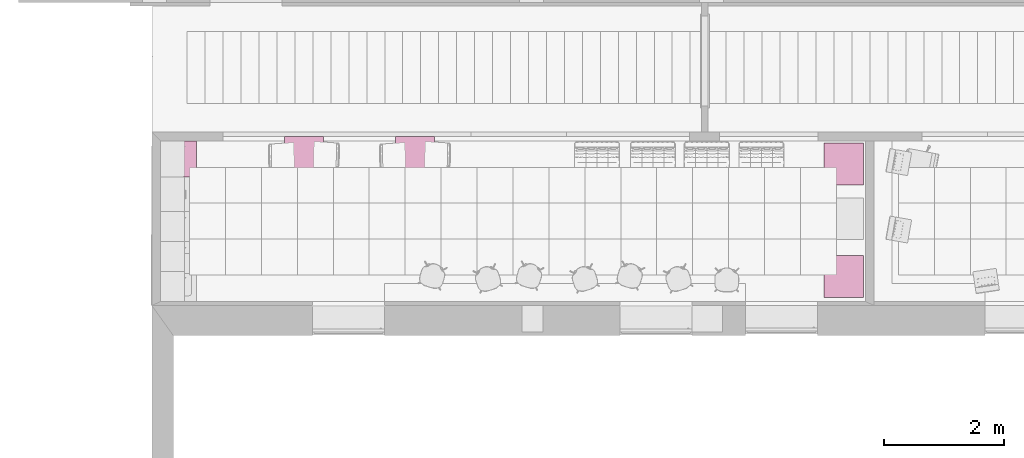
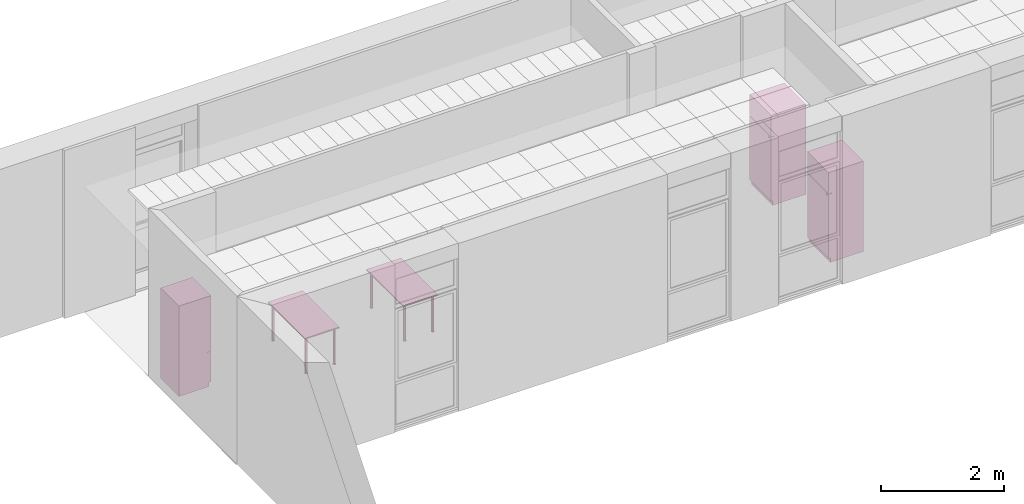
# One storey, part 61 of 68: 5 furnishings.
"""IFC2X3 building model written with IfcOpenShell, lengths in millimetres."""

from ifc_helpers import new_model, entity, si_unit, converted_unit, derived_unit, money_unit, direction, frame, origin_with_axes, place, context, subcontext, project, spatial, open_shell, faceted_brep, surface_model, source, transform, mapped, type_object, element, save


model = new_model("IFC2X3")

# Units and contexts
model_context = context("Model", 3, precision=0.01, world=origin_with_axes(), true_north=direction((0.0, 1.0)))
body_context = subcontext(model_context, "Body", "Model", "MODEL_VIEW")
ifc_project = project(units=[si_unit("LENGTHUNIT", "METRE", prefix="MILLI"), si_unit("AREAUNIT", "SQUARE_METRE"), si_unit("VOLUMEUNIT", "CUBIC_METRE"), converted_unit("PLANEANGLEUNIT", "DEGREE", entity("IfcPlaneAngleMeasure", 0.0174532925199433), si_unit("PLANEANGLEUNIT", "RADIAN"), dimensions=[0, 0, 0, 0, 0, 0, 0]), money_unit("USD"), converted_unit("TIMEUNIT", "Year", entity("IfcTimeMeasure", 31557600.0), si_unit("TIMEUNIT", "SECOND"), dimensions=[0, 0, 1, 0, 0, 0, 0]), si_unit("MASSUNIT", "GRAM", prefix="KILO"), si_unit("THERMODYNAMICTEMPERATUREUNIT", "DEGREE_CELSIUS"), si_unit("LUMINOUSINTENSITYUNIT", "LUMEN"), si_unit("ENERGYUNIT", "JOULE", prefix="MEGA"), derived_unit("THERMALCONDUCTANCEUNIT", [(si_unit("POWERUNIT", "WATT"), 1), (si_unit("LENGTHUNIT", "METRE"), -1), (si_unit("THERMODYNAMICTEMPERATUREUNIT", "KELVIN"), -1)]), derived_unit("SPECIFICHEATCAPACITYUNIT", [(si_unit("ENERGYUNIT", "JOULE"), 1), (si_unit("MASSUNIT", "GRAM", prefix="KILO"), -1), (si_unit("THERMODYNAMICTEMPERATUREUNIT", "KELVIN"), -1)]), derived_unit("MASSDENSITYUNIT", [(si_unit("MASSUNIT", "GRAM", prefix="KILO"), 1), (si_unit("VOLUMEUNIT", "CUBIC_METRE"), -1)])], contexts=[model_context])

# Site, building, storey
site_placement = place(None, origin_with_axes())
site = spatial("IfcSite", under=ifc_project, at=site_placement, Name="Sitio", CompositionType="ELEMENT")
building_placement = place(site_placement, origin_with_axes())
building = spatial("IfcBuilding", under=site, at=building_placement, Name="Construcción", CompositionType="ELEMENT")
storey_placement = place(building_placement, origin_with_axes())
storey = spatial("IfcBuildingStorey", under=building, at=storey_placement, Name="PLANTA 1ª", CompositionType="ELEMENT", Elevation=0.0)

# Furnishings
furnishing_element_type_1 = type_object("IfcFurnishingElementType", Name="Nevera 27")
shared_shape_1 = source(origin_with_axes(), body_context, "Body", "SurfaceModel", [
    faceted_brep([(0.0, 0.0, 1775.0), (600.0, 0.0, 1775.0), (600.0, 0.0, 1800.0), (0.0, 0.0, 1800.0), (0.0, 600.0, 1775.0), (600.0, 600.0, 1775.0), (600.0, 600.0, 1800.0), (0.0, 600.0, 1800.0)], [[[0, 1, 2, 3]], [[0, 4, 5, 1]], [[1, 5, 6, 2]], [[3, 2, 6, 7]], [[4, 0, 3, 7]], [[5, 4, 7, 6]]]),
    faceted_brep([(0.0, 65.0, 0.0), (600.0, 65.0, 0.0), (600.0, 65.0, 1775.0), (0.0, 65.0, 1775.0), (0.0, 600.0, 0.0), (600.0, 600.0, 0.0), (600.0, 600.0, 1775.0), (0.0, 600.0, 1775.0)], [[[0, 1, 2, 3]], [[0, 4, 5, 1]], [[1, 5, 6, 2]], [[3, 2, 6, 7]], [[4, 0, 3, 7]], [[5, 4, 7, 6]]]),
    faceted_brep([(0.0, 30.0, 0.0), (600.0, 30.0, 0.0), (600.0, 30.0, 90.0), (0.0, 30.0, 90.0), (0.0, 60.0, 0.0), (600.0, 60.0, 0.0), (600.0, 60.0, 90.0), (0.0, 60.0, 90.0)], [[[0, 1, 2, 3]], [[0, 4, 5, 1]], [[1, 5, 6, 2]], [[3, 2, 6, 7]], [[4, 0, 3, 7]], [[5, 4, 7, 6]]]),
    faceted_brep([(0.0, 60.0, 695.0), (600.0, 60.0, 695.0), (600.0, 0.0, 695.0), (0.0, 0.0, 695.0), (0.0, 60.00000000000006, 1774.5), (600.0, 60.00000000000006, 1774.5), (600.0, 0.0, 1774.5), (0.0, 0.0, 1774.5)], [[[0, 1, 2, 3]], [[0, 4, 5, 1]], [[1, 5, 6, 2]], [[3, 2, 6, 7]], [[4, 0, 3, 7]], [[5, 4, 7, 6]]]),
    faceted_brep([(0.0, 60.0, 90.0), (600.0, 60.0, 90.0), (600.0, 0.0, 90.0), (0.0, 0.0, 90.0), (0.0, 60.00000000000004, 690.0), (600.0, 60.00000000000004, 690.0), (600.0, 0.0, 690.0), (0.0, 0.0, 690.0)], [[[0, 1, 2, 3]], [[0, 4, 5, 1]], [[1, 5, 6, 2]], [[3, 2, 6, 7]], [[4, 0, 3, 7]], [[5, 4, 7, 6]]]),
    surface_model("IfcShellBasedSurfaceModel", [(600.0, -30.0, 695.0), (600.0, -30.0, 705.0), (600.0, 0.0, 705.0), (600.0, 0.0, 695.0)], [open_shell([[[0, 1, 2, 3]]])]),
    surface_model("IfcShellBasedSurfaceModel", [(600.0, -30.0, 695.0), (600.0, -30.0, 705.0), (570.0, -30.0, 705.0), (570.0, -30.0, 695.0)], [open_shell([[[0, 1, 2, 3]]])]),
    surface_model("IfcShellBasedSurfaceModel", [(600.0, -30.0, 679.9999999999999), (600.0, -30.0, 690.0), (600.0, 0.0, 690.0), (600.0, 0.0, 679.9999999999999)], [open_shell([[[0, 1, 2, 3]]])]),
    surface_model("IfcShellBasedSurfaceModel", [(600.0, -30.0, 679.9999999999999), (600.0, -30.0, 690.0), (570.0, -30.0, 690.0), (570.0, -30.0, 679.9999999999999)], [open_shell([[[0, 1, 2, 3]]])]),
])
furnishing_placement = place(storey_placement, frame((-27304.84818028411, 954.8530559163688, 0.0), z_axis=(0.0, 0.0, 1.0), x_axis=(0.0, 1.0, 0.0)))
element("IfcFurnishingElement", 1, at=furnishing_placement, inside=storey, type_object=furnishing_element_type_1, Name="60.20.53 Armari", context=body_context, shape_type="MappedRepresentation", body=[
    mapped(shared_shape_1, transform((0.0, 0.0, 0.0))),
])
shared_shape_2 = source(origin_with_axes(), body_context, "Body", "SurfaceModel", [
    faceted_brep([(0.0, 0.0, 1775.0), (698.9515664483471, 0.0, 1775.0), (698.9515664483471, 0.0, 1800.0), (0.0, 0.0, 1800.0), (0.0, 654.832835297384, 1775.0), (698.9515664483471, 654.832835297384, 1775.0), (698.9515664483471, 654.832835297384, 1800.0), (0.0, 654.832835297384, 1800.0)], [[[0, 1, 2, 3]], [[0, 4, 5, 1]], [[1, 5, 6, 2]], [[3, 2, 6, 7]], [[4, 0, 3, 7]], [[5, 4, 7, 6]]]),
    faceted_brep([(0.0, 65.0, 0.0), (698.9515664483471, 65.0, 0.0), (698.9515664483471, 65.0, 1775.0), (0.0, 65.0, 1775.0), (0.0, 654.832835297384, 0.0), (698.9515664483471, 654.832835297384, 0.0), (698.9515664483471, 654.832835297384, 1775.0), (0.0, 654.832835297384, 1775.0)], [[[0, 1, 2, 3]], [[0, 4, 5, 1]], [[1, 5, 6, 2]], [[3, 2, 6, 7]], [[4, 0, 3, 7]], [[5, 4, 7, 6]]]),
    faceted_brep([(0.0, 30.0, 0.0), (698.9515664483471, 30.0, 0.0), (698.9515664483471, 30.0, 90.0), (0.0, 30.0, 90.0), (0.0, 60.0, 0.0), (698.9515664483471, 60.0, 0.0), (698.9515664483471, 60.0, 90.0), (0.0, 60.0, 90.0)], [[[0, 1, 2, 3]], [[0, 4, 5, 1]], [[1, 5, 6, 2]], [[3, 2, 6, 7]], [[4, 0, 3, 7]], [[5, 4, 7, 6]]]),
    faceted_brep([(0.0, 60.0, 90.0), (698.9515664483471, 60.0, 90.0), (698.9515664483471, 0.0, 90.0), (0.0, 0.0, 90.0), (0.0, 60.00000000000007, 1369.5), (698.9515664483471, 60.00000000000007, 1369.5), (698.9515664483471, 0.0, 1369.5), (0.0, 0.0, 1369.5)], [[[0, 1, 2, 3]], [[0, 4, 5, 1]], [[1, 5, 6, 2]], [[3, 2, 6, 7]], [[4, 0, 3, 7]], [[5, 4, 7, 6]]]),
    faceted_brep([(0.0, 60.0, 1374.5), (698.9515664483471, 60.0, 1374.5), (698.9515664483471, 0.0, 1374.5), (0.0, 0.0, 1374.5), (0.0, 60.00000000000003, 1774.5), (698.9515664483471, 60.00000000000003, 1774.5), (698.9515664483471, 0.0, 1774.5), (0.0, 0.0, 1774.5)], [[[0, 1, 2, 3]], [[0, 4, 5, 1]], [[1, 5, 6, 2]], [[3, 2, 6, 7]], [[4, 0, 3, 7]], [[5, 4, 7, 6]]]),
    surface_model("IfcShellBasedSurfaceModel", [(698.9515664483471, -30.0, 1359.5), (698.9515664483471, -30.0, 1369.5), (698.9515664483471, 0.0, 1369.5), (698.9515664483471, 0.0, 1359.5)], [open_shell([[[0, 1, 2, 3]]])]),
    surface_model("IfcShellBasedSurfaceModel", [(698.9515664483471, -30.0, 1359.5), (698.9515664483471, -30.0, 1369.5), (668.9515664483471, -30.0, 1369.5), (668.9515664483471, -30.0, 1359.5)], [open_shell([[[0, 1, 2, 3]]])]),
    surface_model("IfcShellBasedSurfaceModel", [(698.9515664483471, -30.0, 1374.5), (698.9515664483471, -30.0, 1384.5), (698.9515664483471, 0.0, 1384.5), (698.9515664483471, 0.0, 1374.5)], [open_shell([[[0, 1, 2, 3]]])]),
    surface_model("IfcShellBasedSurfaceModel", [(698.9515664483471, -30.0, 1374.5), (698.9515664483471, -30.0, 1384.5), (668.9515664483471, -30.0, 1384.5), (668.9515664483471, -30.0, 1374.5)], [open_shell([[[0, 1, 2, 3]]])]),
])
for number, where, z_axis, x_axis in (
    (2, (-16824.2555893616, 1518.631386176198, 0.0), (0.0, 0.0, 1.0), (0.0, -1.0, 0.0)),
    (3, (-16824.2555893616, -358.7704158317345, 0.0), (0.0, 0.0, 1.0), (0.0, -1.0, 0.0)),
):
    element("IfcFurnishingElement", number, at=place(storey_placement, frame(where, z_axis=z_axis, x_axis=x_axis)), inside=storey, type_object=furnishing_element_type_1, Name="60.20.53 Armari", context=body_context, shape_type="MappedRepresentation", body=[
        mapped(shared_shape_2, transform((0.0, 0.0, 0.0))),
    ])
furnishing_element_type_2 = type_object("IfcFurnishingElementType", Name="Mesa Oficina Rect 27")
shared_shape_3 = source(origin_with_axes(), body_context, "Body", "Brep", [
    faceted_brep([(0.0, 0.0, 725.0), (0.0, 0.0, 750.0), (-1200.0, 0.0, 750.0), (-1200.0, 0.0, 725.0), (0.0, 650.0, 725.0), (0.0, 650.0, 750.0), (-1200.0, 650.0, 750.0), (-1200.0, 650.0, 725.0)], [[[0, 1, 2, 3]], [[4, 5, 1, 0]], [[1, 5, 6, 2]], [[3, 2, 6, 7]], [[0, 3, 7, 4]], [[7, 6, 5, 4]]]),
    faceted_brep([(-77.67766952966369, 77.67766952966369, 10.0), (-60.0, 84.99999999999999, 10.0), (-42.3223304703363, 77.67766952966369, 10.0), (-34.99999999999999, 60.0, 10.0), (-42.3223304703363, 42.3223304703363, 10.0), (-60.0, 34.99999999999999, 10.0), (-77.67766952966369, 42.3223304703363, 10.0), (-85.0, 60.0, 10.0), (-77.67766952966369, 77.67766952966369, 725.0), (-60.0, 84.99999999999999, 725.0), (-42.3223304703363, 77.67766952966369, 725.0), (-34.99999999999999, 60.0, 725.0), (-42.3223304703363, 42.3223304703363, 725.0), (-60.0, 34.99999999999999, 725.0), (-77.67766952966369, 42.3223304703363, 725.0), (-85.0, 60.0, 725.0)], [[[0, 1, 2, 3, 4, 5, 6, 7]], [[0, 8, 9, 1]], [[1, 9, 10, 2]], [[2, 10, 11, 3]], [[3, 11, 12, 4]], [[4, 12, 13, 5]], [[5, 13, 14, 6]], [[6, 14, 15, 7]], [[7, 15, 8, 0]], [[8, 15, 14, 13, 12, 11, 10, 9]]]),
    faceted_brep([(-81.21320343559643, 81.21320343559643, 0.0), (-60.0, 90.0, 0.0), (-38.78679656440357, 81.21320343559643, 0.0), (-29.99999999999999, 60.0, 0.0), (-38.78679656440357, 38.78679656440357, 0.0), (-60.0, 29.99999999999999, 0.0), (-81.21320343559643, 38.78679656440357, 0.0), (-90.00000000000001, 60.0, 0.0), (-81.21320343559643, 81.21320343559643, 10.0), (-60.0, 90.0, 10.0), (-38.78679656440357, 81.21320343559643, 10.0), (-29.99999999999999, 60.0, 10.0), (-38.78679656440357, 38.78679656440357, 10.0), (-60.0, 29.99999999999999, 10.0), (-81.21320343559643, 38.78679656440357, 10.0), (-90.00000000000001, 60.0, 10.0)], [[[0, 1, 2, 3, 4, 5, 6, 7]], [[0, 8, 9, 1]], [[1, 9, 10, 2]], [[2, 10, 11, 3]], [[3, 11, 12, 4]], [[4, 12, 13, 5]], [[5, 13, 14, 6]], [[6, 14, 15, 7]], [[7, 15, 8, 0]], [[8, 15, 14, 13, 12, 11, 10, 9]]]),
    faceted_brep([(-77.67766952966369, 607.6776695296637, 10.0), (-60.0, 615.0000000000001, 10.0), (-42.3223304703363, 607.6776695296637, 10.0), (-34.99999999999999, 590.0000000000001, 10.0), (-42.3223304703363, 572.3223304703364, 10.0), (-60.0, 565.0000000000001, 10.0), (-77.67766952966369, 572.3223304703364, 10.0), (-85.0, 590.0000000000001, 10.0), (-77.67766952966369, 607.6776695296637, 725.0), (-60.0, 615.0000000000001, 725.0), (-42.3223304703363, 607.6776695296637, 725.0), (-34.99999999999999, 590.0000000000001, 725.0), (-42.3223304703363, 572.3223304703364, 725.0), (-60.0, 565.0000000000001, 725.0), (-77.67766952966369, 572.3223304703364, 725.0), (-85.0, 590.0000000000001, 725.0)], [[[0, 1, 2, 3, 4, 5, 6, 7]], [[0, 8, 9, 1]], [[1, 9, 10, 2]], [[2, 10, 11, 3]], [[3, 11, 12, 4]], [[4, 12, 13, 5]], [[5, 13, 14, 6]], [[6, 14, 15, 7]], [[7, 15, 8, 0]], [[8, 15, 14, 13, 12, 11, 10, 9]]]),
    faceted_brep([(-81.21320343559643, 611.2132034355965, 0.0), (-60.0, 620.0000000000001, 0.0), (-38.78679656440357, 611.2132034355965, 0.0), (-29.99999999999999, 590.0000000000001, 0.0), (-38.78679656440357, 568.7867965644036, 0.0), (-60.0, 560.0, 0.0), (-81.21320343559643, 568.7867965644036, 0.0), (-90.00000000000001, 590.0000000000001, 0.0), (-81.21320343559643, 611.2132034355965, 10.0), (-60.0, 620.0000000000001, 10.0), (-38.78679656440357, 611.2132034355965, 10.0), (-29.99999999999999, 590.0000000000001, 10.0), (-38.78679656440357, 568.7867965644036, 10.0), (-60.0, 560.0, 10.0), (-81.21320343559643, 568.7867965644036, 10.0), (-90.00000000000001, 590.0000000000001, 10.0)], [[[0, 1, 2, 3, 4, 5, 6, 7]], [[0, 8, 9, 1]], [[1, 9, 10, 2]], [[2, 10, 11, 3]], [[3, 11, 12, 4]], [[4, 12, 13, 5]], [[5, 13, 14, 6]], [[6, 14, 15, 7]], [[7, 15, 8, 0]], [[8, 15, 14, 13, 12, 11, 10, 9]]]),
    faceted_brep([(-1157.677669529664, 77.67766952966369, 10.0), (-1140.0, 84.99999999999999, 10.0), (-1122.322330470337, 77.67766952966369, 10.0), (-1115.0, 60.0, 10.0), (-1122.322330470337, 42.3223304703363, 10.0), (-1140.0, 34.99999999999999, 10.0), (-1157.677669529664, 42.3223304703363, 10.0), (-1165.0, 60.0, 10.0), (-1157.677669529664, 77.67766952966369, 725.0), (-1140.0, 84.99999999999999, 725.0), (-1122.322330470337, 77.67766952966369, 725.0), (-1115.0, 60.0, 725.0), (-1122.322330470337, 42.3223304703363, 725.0), (-1140.0, 34.99999999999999, 725.0), (-1157.677669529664, 42.3223304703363, 725.0), (-1165.0, 60.0, 725.0)], [[[0, 1, 2, 3, 4, 5, 6, 7]], [[0, 8, 9, 1]], [[1, 9, 10, 2]], [[2, 10, 11, 3]], [[3, 11, 12, 4]], [[4, 12, 13, 5]], [[5, 13, 14, 6]], [[6, 14, 15, 7]], [[7, 15, 8, 0]], [[8, 15, 14, 13, 12, 11, 10, 9]]]),
    faceted_brep([(-1161.213203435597, 81.21320343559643, 0.0), (-1140.0, 90.0, 0.0), (-1118.786796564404, 81.21320343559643, 0.0), (-1110.0, 60.0, 0.0), (-1118.786796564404, 38.78679656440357, 0.0), (-1140.0, 29.99999999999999, 0.0), (-1161.213203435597, 38.78679656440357, 0.0), (-1170.0, 60.0, 0.0), (-1161.213203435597, 81.21320343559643, 10.0), (-1140.0, 90.0, 10.0), (-1118.786796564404, 81.21320343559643, 10.0), (-1110.0, 60.0, 10.0), (-1118.786796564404, 38.78679656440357, 10.0), (-1140.0, 29.99999999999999, 10.0), (-1161.213203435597, 38.78679656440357, 10.0), (-1170.0, 60.0, 10.0)], [[[0, 1, 2, 3, 4, 5, 6, 7]], [[0, 8, 9, 1]], [[1, 9, 10, 2]], [[2, 10, 11, 3]], [[3, 11, 12, 4]], [[4, 12, 13, 5]], [[5, 13, 14, 6]], [[6, 14, 15, 7]], [[7, 15, 8, 0]], [[8, 15, 14, 13, 12, 11, 10, 9]]]),
    faceted_brep([(-1157.677669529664, 607.6776695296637, 10.0), (-1140.0, 615.0000000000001, 10.0), (-1122.322330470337, 607.6776695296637, 10.0), (-1115.0, 590.0000000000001, 10.0), (-1122.322330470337, 572.3223304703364, 10.0), (-1140.0, 565.0000000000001, 10.0), (-1157.677669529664, 572.3223304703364, 10.0), (-1165.0, 590.0000000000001, 10.0), (-1157.677669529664, 607.6776695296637, 725.0), (-1140.0, 615.0000000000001, 725.0), (-1122.322330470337, 607.6776695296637, 725.0), (-1115.0, 590.0000000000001, 725.0), (-1122.322330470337, 572.3223304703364, 725.0), (-1140.0, 565.0000000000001, 725.0), (-1157.677669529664, 572.3223304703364, 725.0), (-1165.0, 590.0000000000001, 725.0)], [[[0, 1, 2, 3, 4, 5, 6, 7]], [[0, 8, 9, 1]], [[1, 9, 10, 2]], [[2, 10, 11, 3]], [[3, 11, 12, 4]], [[4, 12, 13, 5]], [[5, 13, 14, 6]], [[6, 14, 15, 7]], [[7, 15, 8, 0]], [[8, 15, 14, 13, 12, 11, 10, 9]]]),
    faceted_brep([(-1161.213203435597, 611.2132034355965, 0.0), (-1140.0, 620.0000000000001, 0.0), (-1118.786796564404, 611.2132034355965, 0.0), (-1110.0, 590.0000000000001, 0.0), (-1118.786796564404, 568.7867965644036, 0.0), (-1140.0, 560.0, 0.0), (-1161.213203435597, 568.7867965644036, 0.0), (-1170.0, 590.0000000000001, 0.0), (-1161.213203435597, 611.2132034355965, 10.0), (-1140.0, 620.0000000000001, 10.0), (-1118.786796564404, 611.2132034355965, 10.0), (-1110.0, 590.0000000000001, 10.0), (-1118.786796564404, 568.7867965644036, 10.0), (-1140.0, 560.0, 10.0), (-1161.213203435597, 568.7867965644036, 10.0), (-1170.0, 590.0000000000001, 10.0)], [[[0, 1, 2, 3, 4, 5, 6, 7]], [[0, 8, 9, 1]], [[1, 9, 10, 2]], [[2, 10, 11, 3]], [[3, 11, 12, 4]], [[4, 12, 13, 5]], [[5, 13, 14, 6]], [[6, 14, 15, 7]], [[7, 15, 8, 0]], [[8, 15, 14, 13, 12, 11, 10, 9]]]),
])
for number, where, z_axis, x_axis in (
    (4, (-25836.31706810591, 430.8530559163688, 0.0), (0.0, 0.0, 1.0), (0.0, -1.0, 0.0)),
    (5, (-23981.21139566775, 430.8530559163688, 0.0), (0.0, 0.0, 1.0), (0.0, -1.0, 0.0)),
):
    element("IfcFurnishingElement", number, at=place(storey_placement, frame(where, z_axis=z_axis, x_axis=x_axis)), inside=storey, type_object=furnishing_element_type_2, Name="60.20.51 Armari", context=body_context, shape_type="MappedRepresentation", body=[
        mapped(shared_shape_3, transform((0.0, 0.0, 0.0))),
    ])

save(model, "model.ifc")
